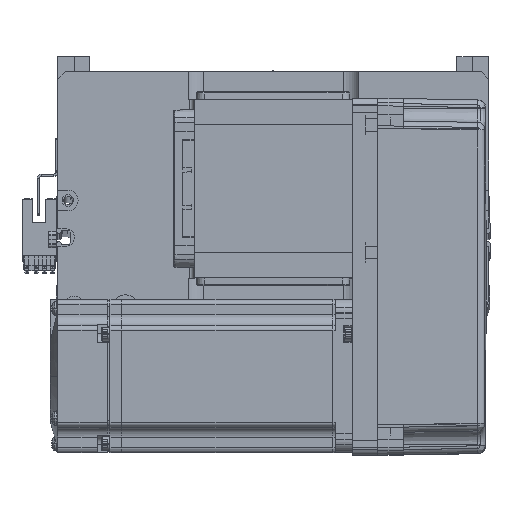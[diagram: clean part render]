
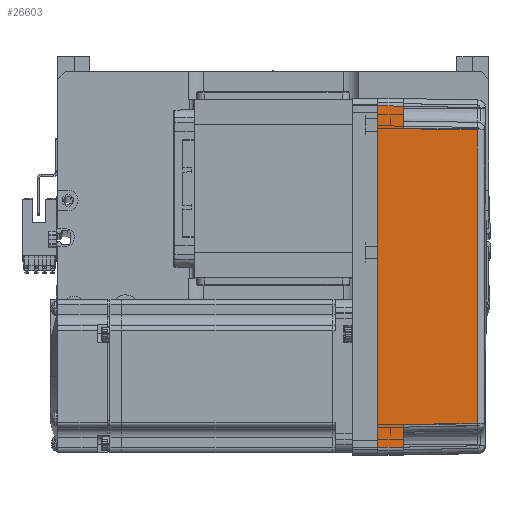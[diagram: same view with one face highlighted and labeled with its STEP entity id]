
A CAD part, top view. The second image highlights one B-rep face of the part: STEP entity #26603.
In plain terms, the highlighted planar face has unit normal (0.018, 0, 1) as drawn and (0, 1, 0.017) by its records, which use the part's own axes.
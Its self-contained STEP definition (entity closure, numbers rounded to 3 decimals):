
#2528 = CARTESIAN_POINT ( 'NONE',  ( 70., 35.825, 10. ) ) ;
#2618 = FACE_OUTER_BOUND ( 'NONE', #39503, .T. ) ;
#3158 = VECTOR ( 'NONE', #51851, 1000. ) ;
#5094 = DIRECTION ( 'NONE',  ( 0.017, 0.017, -1. ) ) ;
#5991 = EDGE_CURVE ( 'NONE', #48969, #13709, #38331, .T. ) ;
#6139 = ORIENTED_EDGE ( 'NONE', *, *, #64412, .T. ) ;
#6650 = DIRECTION ( 'NONE',  ( -0.017, -0.017, 1. ) ) ;
#7562 = DIRECTION ( 'NONE',  ( 1., 0., 0. ) ) ;
#9424 = CARTESIAN_POINT ( 'NONE',  ( 57.495, 35.32, 38.985 ) ) ;
#10663 = EDGE_CURVE ( 'NONE', #63892, #38379, #58500, .T. ) ;
#13709 = VERTEX_POINT ( 'NONE', #33345 ) ;
#15189 = CARTESIAN_POINT ( 'NONE',  ( -67., 36., 0. ) ) ;
#15223 = EDGE_CURVE ( 'NONE', #32420, #45847, #22487, .T. ) ;
#15934 = ORIENTED_EDGE ( 'NONE', *, *, #50309, .F. ) ;
#17285 = LINE ( 'NONE', #27226, #60177 ) ;
#17919 = DIRECTION ( 'NONE',  ( 1., 0., 0. ) ) ;
#18744 = CARTESIAN_POINT ( 'NONE',  ( -67., 36., 0. ) ) ;
#18939 = ORIENTED_EDGE ( 'NONE', *, *, #58222, .T. ) ;
#19345 = CARTESIAN_POINT ( 'NONE',  ( -66.826, 35.825, 10. ) ) ;
#21778 = CARTESIAN_POINT ( 'NONE',  ( -58., 35.825, 10. ) ) ;
#22487 = LINE ( 'NONE', #39575, #47473 ) ;
#24007 = PLANE ( 'NONE',  #28138 ) ;
#24056 = CARTESIAN_POINT ( 'NONE',  ( -19.165, 35.316, 39.181 ) ) ;
#24221 = DIRECTION ( 'NONE',  ( 0., -0.017, 1. ) ) ;
#26007 = VERTEX_POINT ( 'NONE', #46688 ) ;
#26407 = CARTESIAN_POINT ( 'NONE',  ( -58., 35.825, 10. ) ) ;
#26603 = ADVANCED_FACE ( 'NONE', ( #2618 ), #24007, .T. ) ;
#27226 = CARTESIAN_POINT ( 'NONE',  ( 70., 35.825, 10. ) ) ;
#27338 = CARTESIAN_POINT ( 'NONE',  ( 0., 36., 0. ) ) ;
#28138 = AXIS2_PLACEMENT_3D ( 'NONE', #44071, #34681, #24221 ) ;
#28824 = EDGE_CURVE ( 'NONE', #63892, #26007, #64691, .T. ) ;
#30055 = ORIENTED_EDGE ( 'NONE', *, *, #28824, .F. ) ;
#31155 = ORIENTED_EDGE ( 'NONE', *, *, #5991, .T. ) ;
#32420 = VERTEX_POINT ( 'NONE', #63243 ) ;
#33226 = CARTESIAN_POINT ( 'NONE',  ( 19.165, 35.316, 39.181 ) ) ;
#33345 = CARTESIAN_POINT ( 'NONE',  ( -57.495, 35.32, 38.985 ) ) ;
#34681 = DIRECTION ( 'NONE',  ( 0., 1., 0.017 ) ) ;
#35157 = VECTOR ( 'NONE', #6650, 1000. ) ;
#35848 = ORIENTED_EDGE ( 'NONE', *, *, #10663, .T. ) ;
#36484 = LINE ( 'NONE', #2528, #47464 ) ;
#36574 = DIRECTION ( 'NONE',  ( 1., 0., 0. ) ) ;
#37967 = ORIENTED_EDGE ( 'NONE', *, *, #15223, .T. ) ;
#38331 = LINE ( 'NONE', #26407, #45497 ) ;
#38379 = VERTEX_POINT ( 'NONE', #19345 ) ;
#39503 = EDGE_LOOP ( 'NONE', ( #35848, #55583, #31155, #18939, #37967, #6139, #15934, #30055 ) ) ;
#39575 = CARTESIAN_POINT ( 'NONE',  ( 57.495, 35.32, 38.985 ) ) ;
#40184 = CARTESIAN_POINT ( 'NONE',  ( 66.826, 35.825, 10. ) ) ;
#42176 = LINE ( 'NONE', #51591, #35157 ) ;
#43670 = VECTOR ( 'NONE', #17919, 1000. ) ;
#44071 = CARTESIAN_POINT ( 'NONE',  ( 70., 36., 0. ) ) ;
#45497 = VECTOR ( 'NONE', #61660, 1000. ) ;
#45847 = VERTEX_POINT ( 'NONE', #50717 ) ;
#46688 = CARTESIAN_POINT ( 'NONE',  ( 67., 36., 0. ) ) ;
#47464 = VECTOR ( 'NONE', #7562, 1000. ) ;
#47473 = VECTOR ( 'NONE', #5094, 1000. ) ;
#48892 = EDGE_CURVE ( 'NONE', #38379, #48969, #17285, .T. ) ;
#48922 = CARTESIAN_POINT ( 'NONE',  ( -57.495, 35.32, 38.985 ) ) ;
#48969 = VERTEX_POINT ( 'NONE', #21778 ) ;
#50309 = EDGE_CURVE ( 'NONE', #26007, #56853, #42176, .T. ) ;
#50717 = CARTESIAN_POINT ( 'NONE',  ( 58., 35.825, 10. ) ) ;
#51591 = CARTESIAN_POINT ( 'NONE',  ( 67.001, 36.001, -0.052 ) ) ;
#51851 = DIRECTION ( 'NONE',  ( 0.017, -0.017, 1. ) ) ;
#55583 = ORIENTED_EDGE ( 'NONE', *, *, #48892, .T. ) ;
#56853 = VERTEX_POINT ( 'NONE', #40184 ) ;
#58222 = EDGE_CURVE ( 'NONE', #13709, #32420, #63817, .T. ) ;
#58500 = LINE ( 'NONE', #15189, #3158 ) ;
#60177 = VECTOR ( 'NONE', #36574, 1000. ) ;
#61660 = DIRECTION ( 'NONE',  ( 0.017, -0.017, 1. ) ) ;
#63243 = CARTESIAN_POINT ( 'NONE',  ( 57.495, 35.32, 38.985 ) ) ;
#63817 = B_SPLINE_CURVE_WITH_KNOTS ( 'NONE', 3,
 ( #48922, #24056, #33226, #9424 ),
 .UNSPECIFIED., .F., .F.,
 ( 4, 4 ),
 ( 0., 1. ),
 .UNSPECIFIED. ) ;
#63892 = VERTEX_POINT ( 'NONE', #18744 ) ;
#64412 = EDGE_CURVE ( 'NONE', #45847, #56853, #36484, .T. ) ;
#64691 = LINE ( 'NONE', #27338, #43670 ) ;
